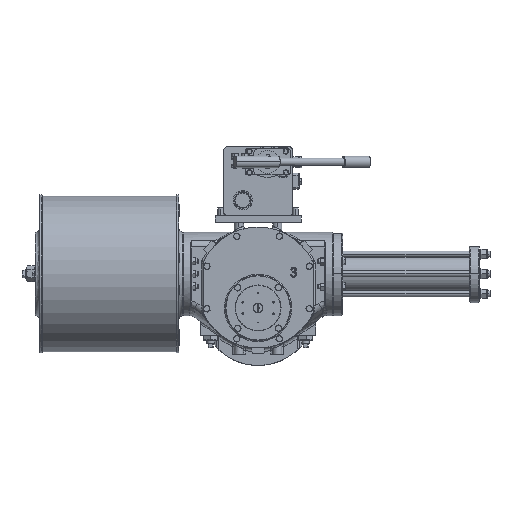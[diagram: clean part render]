
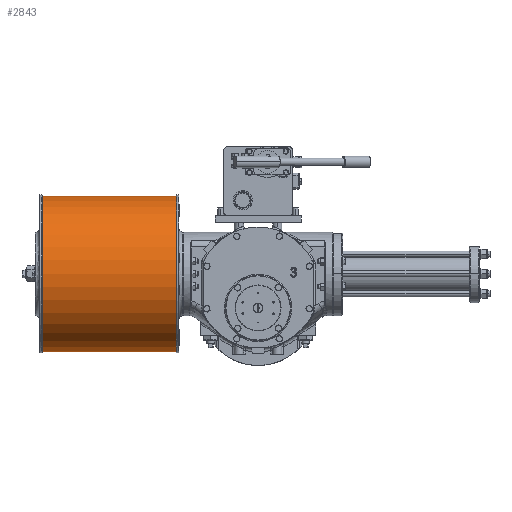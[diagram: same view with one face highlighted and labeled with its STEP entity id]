
A CAD part, top view. The second image highlights one B-rep face of the part: STEP entity #2843.
In plain terms, the highlighted cylindrical face has radius 203.2 mm (diameter 406.4 mm), a partial arc.
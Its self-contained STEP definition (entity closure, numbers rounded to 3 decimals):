
#1634 = CARTESIAN_POINT ( 'NONE',  ( -214., 35.5, 74.5 ) ) ;
#1992 = DIRECTION ( 'NONE',  ( 1., 0., 0. ) ) ;
#2544 = EDGE_LOOP ( 'NONE', ( #7379, #57023, #12592, #52274 ) ) ;
#2843 = ADVANCED_FACE ( 'NONE', ( #20900 ), #26552, .T. ) ;
#3925 = CIRCLE ( 'NONE', #83811, 203.2 ) ;
#7379 = ORIENTED_EDGE ( 'NONE', *, *, #50139, .T. ) ;
#10155 = CARTESIAN_POINT ( 'NONE',  ( -214., -167.7, 74.5 ) ) ;
#12592 = ORIENTED_EDGE ( 'NONE', *, *, #64912, .T. ) ;
#18270 = VECTOR ( 'NONE', #78339, 1000. ) ;
#19357 = AXIS2_PLACEMENT_3D ( 'NONE', #33202, #76587, #85046 ) ;
#20900 = FACE_OUTER_BOUND ( 'NONE', #2544, .T. ) ;
#22431 = DIRECTION ( 'NONE',  ( -1., 0., 0. ) ) ;
#24793 = CARTESIAN_POINT ( 'NONE',  ( -214., 238.7, 74.5 ) ) ;
#26552 = CYLINDRICAL_SURFACE ( 'NONE', #19357, 203.2 ) ;
#31123 = DIRECTION ( 'NONE',  ( -1., 0., 0. ) ) ;
#33202 = CARTESIAN_POINT ( 'NONE',  ( -214., 35.5, 74.5 ) ) ;
#38198 = CARTESIAN_POINT ( 'NONE',  ( -214., -167.7, 74.5 ) ) ;
#41724 = VERTEX_POINT ( 'NONE', #77107 ) ;
#50139 = EDGE_CURVE ( 'NONE', #51132, #74758, #71225, .T. ) ;
#51132 = VERTEX_POINT ( 'NONE', #10155 ) ;
#52274 = ORIENTED_EDGE ( 'NONE', *, *, #79753, .F. ) ;
#52487 = CARTESIAN_POINT ( 'NONE',  ( -564., 35.5, 74.5 ) ) ;
#54630 = AXIS2_PLACEMENT_3D ( 'NONE', #1634, #22431, #64897 ) ;
#57023 = ORIENTED_EDGE ( 'NONE', *, *, #92523, .T. ) ;
#64897 = DIRECTION ( 'NONE',  ( 0., -1., 0. ) ) ;
#64912 = EDGE_CURVE ( 'NONE', #41724, #80607, #3925, .T. ) ;
#66516 = LINE ( 'NONE', #38198, #85321 ) ;
#71225 = CIRCLE ( 'NONE', #54630, 203.2 ) ;
#71684 = CARTESIAN_POINT ( 'NONE',  ( -214., 238.7, 74.5 ) ) ;
#74758 = VERTEX_POINT ( 'NONE', #24793 ) ;
#76587 = DIRECTION ( 'NONE',  ( -1., 0., 0. ) ) ;
#77107 = CARTESIAN_POINT ( 'NONE',  ( -564., 238.7, 74.5 ) ) ;
#78339 = DIRECTION ( 'NONE',  ( -1., 0., 0. ) ) ;
#79244 = LINE ( 'NONE', #71684, #18270 ) ;
#79753 = EDGE_CURVE ( 'NONE', #51132, #80607, #66516, .T. ) ;
#80607 = VERTEX_POINT ( 'NONE', #85082 ) ;
#81307 = DIRECTION ( 'NONE',  ( 0., -1., 0. ) ) ;
#83811 = AXIS2_PLACEMENT_3D ( 'NONE', #52487, #1992, #81307 ) ;
#85046 = DIRECTION ( 'NONE',  ( 0., -1., 0. ) ) ;
#85082 = CARTESIAN_POINT ( 'NONE',  ( -564., -167.7, 74.5 ) ) ;
#85321 = VECTOR ( 'NONE', #31123, 1000. ) ;
#92523 = EDGE_CURVE ( 'NONE', #74758, #41724, #79244, .T. ) ;
